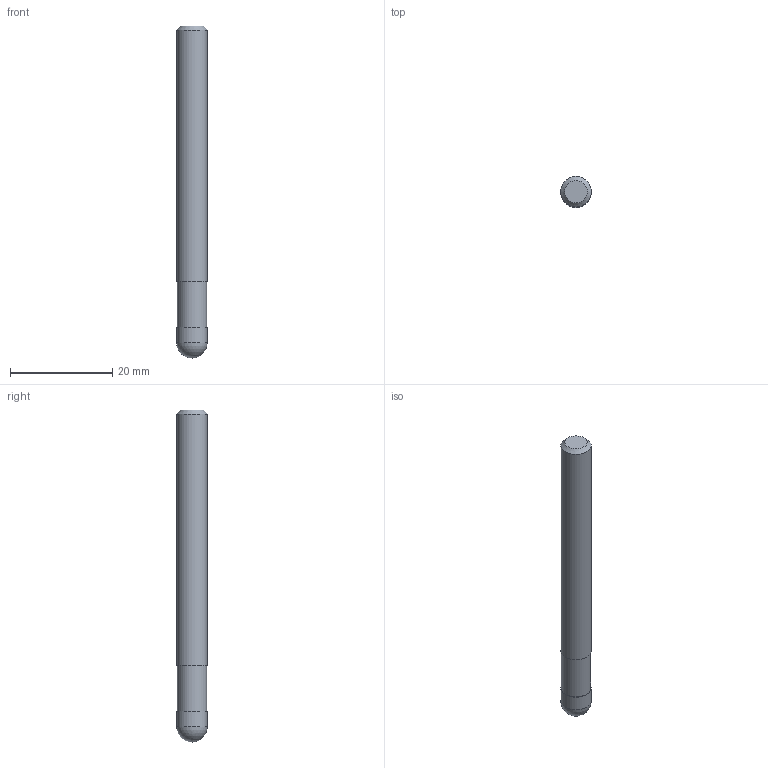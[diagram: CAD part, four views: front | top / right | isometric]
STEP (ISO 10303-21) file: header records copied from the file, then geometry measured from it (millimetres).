
FILE_DESCRIPTION((''),'2;1');
FILE_NAME('C:\Users\nsx150\AppData\Local\Temp\Mastercam 2021\I4OPY4JDSB\TEMP.step','2022-11-18T16:28:01',(''),(''),'STEP Write','Mastercam 2021 ... CNC Software, Inc.','');
FILE_SCHEMA(('AUTOMOTIVE_DESIGN'));
Length unit declared in the file: millimetre
Products named in the file (1): None
Bounding box: 6 x 6 x 65 mm (x, y, z)
Volume: 1779.3 mm3; surface area: 1291.9 mm2
Topology: 2 solids, 2 shells, 9 faces, 13 edges, 8 vertices
Faces by surface type: plane 4, cylinder 3, sphere 1, cone 1
Full cylindrical faces by diameter (mm): 5.7 x1, 6 x2
Entity records: 211 total; most frequent: DIRECTION 36, CARTESIAN_POINT 25, AXIS2_PLACEMENT_3D 18, ORIENTED_EDGE 14, EDGE_LOOP 14, STYLED_ITEM 12, ADVANCED_FACE 9, FACE_BOUND 8
